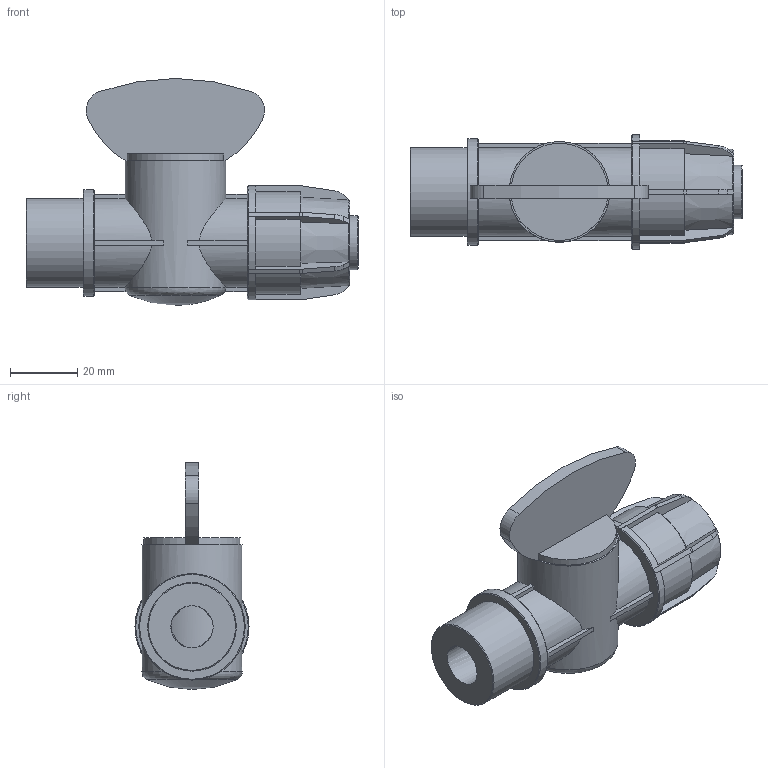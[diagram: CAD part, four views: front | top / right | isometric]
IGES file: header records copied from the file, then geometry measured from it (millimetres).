
Global section: file name: 03010716.ipt; native system: Autodesk Inventor 2015; preprocessor: unknown; author: KIM; date: 20170618.093032; units: millimetre
Bounding box: 99 x 34 x 67.7 mm (x, y, z)
Volume: 69652.6 mm3; surface area: 18786.4 mm2
Topology: 1 solids, 1 shells, 165 faces, 465 edges, 307 vertices
Faces by surface type: plane 88, cylinder 45, cone 28, revolution 3, sphere 1
Full cylindrical faces by diameter (mm): 16 x1, 26.441 x1, 30 x1, 31.729 x1
